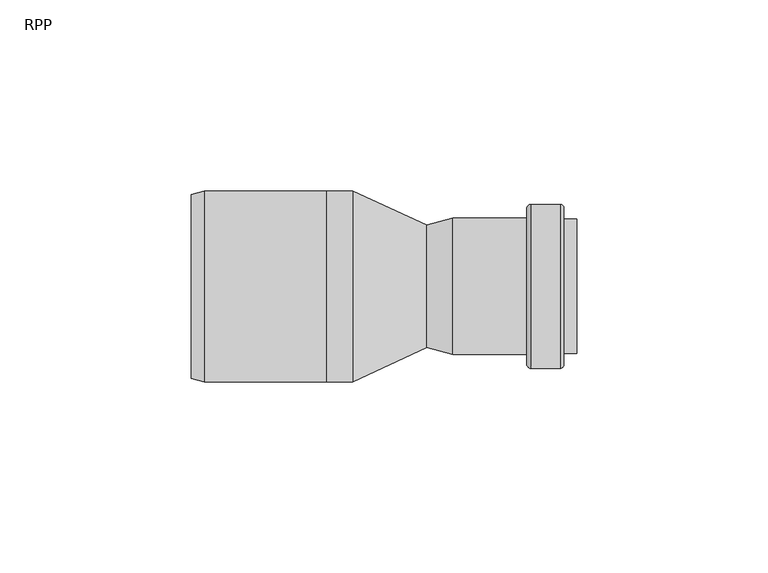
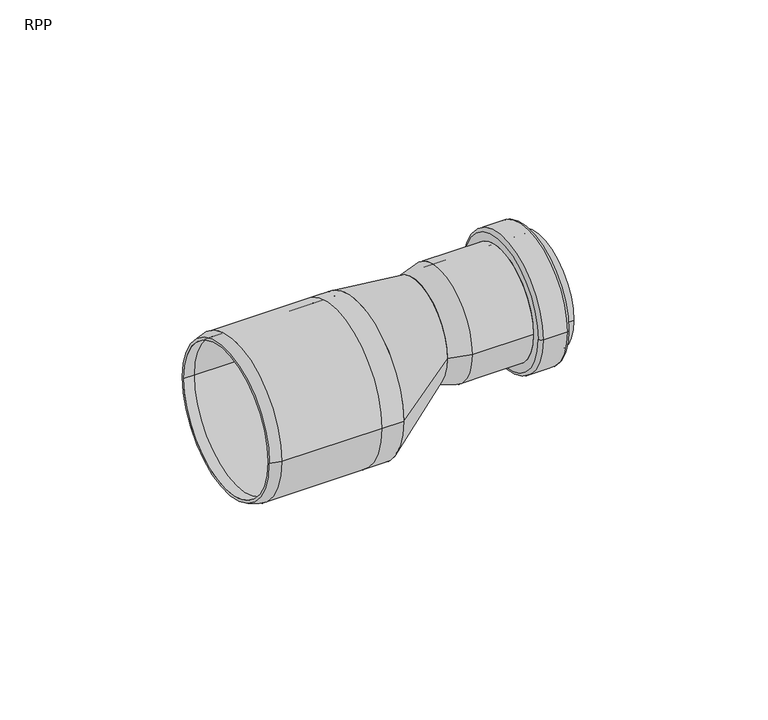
"""IFC4 building model written with IfcOpenShell, lengths in millimetres: pipe fitting geometry, RAUPIANO PLUS Reducer : RPP."""

from ifc_helpers import new_model, si_unit, point, frame, origin, place, context, project, spatial, polyline, circle_curve, ellipse_curve, trimmed, source, transform, mapped, element, save
from ifc_brep_helpers import plane_surface, cylinder_surface, revolved_surface, spline_surface, advanced_brep


def rpp_14855714(model_context):
    return source(origin(), model_context, "Body", "AdvancedBrep", [
        advanced_brep(
        [(35.9, 17.8220545, 9.0), (35.9, -17.8220545, 9.0), (16.5, -17.8220545, 9.0), (16.5, 17.8220545, 9.0), (49.0, 17.6076952, 9.0), (49.0, -17.6076952, 9.0), (45.6, -17.6076952, 9.0), (45.6, 17.6076952, 9.0), (45.6, 16.0220545, 9.0), (45.6, -16.0220545, 9.0), (49.0, -16.0220545, 9.0), (49.0, 16.0220545, 9.0), (16.5, 16.0220545, 9.0), (16.5, -16.0220545, 9.0), (9.7, 14.2, 9.0), (9.7, -14.2, 9.0), (9.7, -16.0, 9.0), (9.7, 16.0, 9.0), (36.9, 21.4720545, 9.0), (36.9, -21.4720545, 9.0), (35.9, -20.4720545, 9.0), (35.9, 20.4720545, 9.0), (44.6, 21.4720545, 9.0), (44.6, -21.4720545, 9.0), (45.6, 20.4720545, 9.0), (45.6, -20.4720545, 9.0)],
        [
            (0, 1, circle_curve(frame((35.9, 0.0, 9.0), z_axis=(-1.0, 0.0, 0.0), x_axis=(0.0, -1.0, 0.0)), 17.8220545)),
            (1, 2),
            (2, 3, circle_curve(frame((16.5, 0.0, 9.0), z_axis=(1.0, 0.0, 0.0), x_axis=(0.0, -1.0, 0.0)), 17.8220545)),
            (3, 0),
            (4, 5, circle_curve(frame((49.0, 0.0, 9.0), z_axis=(-1.0, 0.0, 0.0), x_axis=(0.0, -1.0, 0.0)), 17.6076952)),
            (5, 6),
            (6, 7, circle_curve(frame((45.6, 0.0, 9.0), z_axis=(1.0, 0.0, 0.0), x_axis=(0.0, -1.0, 0.0)), 17.6076952)),
            (7, 4),
            (8, 9, circle_curve(frame((45.6, 0.0, 9.0), z_axis=(-1.0, 0.0, 0.0), x_axis=(0.0, -1.0, 0.0)), 16.0220545)),
            (9, 10),
            (10, 11, circle_curve(frame((49.0, 0.0, 9.0), z_axis=(1.0, 0.0, 0.0), x_axis=(0.0, -1.0, 0.0)), 16.0220545)),
            (11, 8),
            (12, 13, circle_curve(frame((16.5, 0.0, 9.0), z_axis=(-1.0, 0.0, 0.0), x_axis=(0.0, -1.0, 0.0)), 16.0220545)),
            (13, 9),
            (8, 12),
            (14, 15, circle_curve(frame((9.7, 0.0, 9.0), z_axis=(-1.0, 0.0, 0.0), x_axis=(0.0, -1.0, 0.0)), 14.2)),
            (15, 13),
            (12, 14),
            (2, 16),
            (16, 17, circle_curve(frame((9.7, 0.0, 9.0), z_axis=(1.0, 0.0, 0.0), x_axis=(0.0, -1.0, 0.0)), 16.0)),
            (17, 3),
            (1, 0, circle_curve(frame((35.9, 0.0, 9.0), z_axis=(-1.0, 0.0, 0.0), x_axis=(0.0, 1.0, 0.0)), 17.8220545)),
            (3, 2, circle_curve(frame((16.5, 0.0, 9.0), z_axis=(1.0, 0.0, 0.0), x_axis=(0.0, 1.0, 0.0)), 17.8220545)),
            (5, 4, circle_curve(frame((49.0, 0.0, 9.0), z_axis=(-1.0, 0.0, 0.0), x_axis=(0.0, 1.0, 0.0)), 17.6076952)),
            (7, 6, circle_curve(frame((45.6, 0.0, 9.0), z_axis=(1.0, 0.0, 0.0), x_axis=(0.0, 1.0, 0.0)), 17.6076952)),
            (10, 11, circle_curve(frame((49.0, 0.0, 9.0), z_axis=(-1.0, 0.0, 0.0), x_axis=(0.0, 1.0, 0.0)), 16.0220545)),
            (9, 8, circle_curve(frame((45.6, 0.0, 9.0), z_axis=(-1.0, 0.0, 0.0), x_axis=(0.0, 1.0, 0.0)), 16.0220545)),
            (13, 12, circle_curve(frame((16.5, 0.0, 9.0), z_axis=(-1.0, 0.0, 0.0), x_axis=(0.0, 1.0, 0.0)), 16.0220545)),
            (15, 14, circle_curve(frame((9.7, 0.0, 9.0), z_axis=(-1.0, 0.0, 0.0), x_axis=(0.0, 1.0, 0.0)), 14.2)),
            (17, 16, circle_curve(frame((9.7, 0.0, 9.0), z_axis=(1.0, 0.0, 0.0), x_axis=(0.0, 1.0, 0.0)), 16.0)),
            (18, 19, circle_curve(frame((36.9, 0.0, 9.0), z_axis=(-1.0, 0.0, 0.0), x_axis=(0.0, -1.0, 0.0)), 21.4720545)),
            (19, 20, circle_curve(frame((36.9, -20.4720545, 9.0), z_axis=(0.0, 0.0, -1.0), x_axis=(1.0, 0.0, 0.0)), 1.0)),
            (20, 21, circle_curve(frame((35.9, 0.0, 9.0), z_axis=(1.0, 0.0, 0.0), x_axis=(0.0, -1.0, 0.0)), 20.4720545)),
            (21, 18, circle_curve(frame((36.9, 20.4720545, 9.0), z_axis=(0.0, 0.0, -1.0), x_axis=(1.0, 0.0, 0.0)), 1.0)),
            (22, 23, circle_curve(frame((44.6, 0.0, 9.0), z_axis=(-1.0, 0.0, 0.0), x_axis=(0.0, -1.0, 0.0)), 21.4720545)),
            (23, 19),
            (18, 22),
            (24, 25, circle_curve(frame((45.6, 0.0, 9.0), z_axis=(-1.0, 0.0, 0.0), x_axis=(0.0, -1.0, 0.0)), 20.4720545)),
            (25, 23, circle_curve(frame((44.6, -20.4720545, 9.0), z_axis=(0.0, 0.0, -1.0), x_axis=(1.0, 0.0, 0.0)), 1.0)),
            (22, 24, circle_curve(frame((44.6, 20.4720545, 9.0), z_axis=(0.0, 0.0, -1.0), x_axis=(1.0, 0.0, 0.0)), 1.0)),
            (20, 21, circle_curve(frame((35.9, 0.0, 9.0), z_axis=(-1.0, 0.0, 0.0), x_axis=(0.0, 1.0, 0.0)), 20.4720545)),
            (19, 18, circle_curve(frame((36.9, 0.0, 9.0), z_axis=(-1.0, 0.0, 0.0), x_axis=(0.0, 1.0, 0.0)), 21.4720545)),
            (23, 22, circle_curve(frame((44.6, 0.0, 9.0), z_axis=(-1.0, 0.0, 0.0), x_axis=(0.0, 1.0, 0.0)), 21.4720545)),
            (25, 24, circle_curve(frame((45.6, 0.0, 9.0), z_axis=(-1.0, 0.0, 0.0), x_axis=(0.0, 1.0, 0.0)), 20.4720545)),
        ],
        [
            cylinder_surface(frame((0.0, 0.0, 9.0), z_axis=(1.0, 0.0, 0.0), x_axis=(0.0, -1.0, 0.0)), 17.8220545),
            cylinder_surface(frame((0.0, 0.0, 9.0), z_axis=(1.0, 0.0, 0.0), x_axis=(0.0, -1.0, 0.0)), 17.6076952),
            revolved_surface(polyline([(49.0, -16.0220545, 9.0), (45.6, -16.0220545, 9.0)]), (0.0, 0.0, 9.0), (1.0, 0.0, 0.0)),
            revolved_surface(polyline([(45.6, -16.0220545, 9.0), (16.5, -16.0220545, 9.0)]), (0.0, 0.0, 9.0), (1.0, 0.0, 0.0)),
            revolved_surface(polyline([(16.5, -16.0220545, 9.0), (9.7, -14.2, 9.0)]), (0.0, 0.0, 9.0), (1.0, 0.0, 0.0)),
            revolved_surface(polyline([(9.7, -16.0, 9.0), (16.5, -17.8220545, 9.0)]), (0.0, 0.0, 9.0), (1.0, 0.0, 0.0)),
            cylinder_surface(frame((0.0, 0.0, 9.0), z_axis=(1.0, 0.0, 0.0), x_axis=(0.0, 1.0, 0.0)), 17.8220545),
            cylinder_surface(frame((0.0, 0.0, 9.0), z_axis=(1.0, 0.0, 0.0), x_axis=(0.0, 1.0, 0.0)), 17.6076952),
            plane_surface(frame((49.0, 0.0, 9.0), z_axis=(1.0, 0.0, 0.0), x_axis=(0.0, 1.0, 0.0))),
            revolved_surface(polyline([(49.0, 16.0220545, 9.0), (45.6, 16.0220545, 9.0)]), (0.0, 0.0, 9.0), (1.0, 0.0, 0.0)),
            revolved_surface(polyline([(45.6, 16.0220545, 9.0), (16.5, 16.0220545, 9.0)]), (0.0, 0.0, 9.0), (1.0, 0.0, 0.0)),
            revolved_surface(polyline([(16.5, 16.0220545, 9.0), (9.7, 14.2, 9.0)]), (0.0, 0.0, 9.0), (1.0, 0.0, 0.0)),
            revolved_surface(polyline([(9.7, 16.0, 9.0), (16.5, 17.8220545, 9.0)]), (0.0, 0.0, 9.0), (1.0, 0.0, 0.0)),
            revolved_surface(trimmed(ellipse_curve(frame((36.9, -20.4720545, 9.0), z_axis=(0.0, 0.0, 1.0), x_axis=(1.0, 0.0, 0.0)), 1.0, 1.0), [point((35.9, -20.4720545, 9.0))], [point((36.9, -21.4720545, 9.0))], True, "CARTESIAN"), (0.0, 0.0, 9.0), (1.0, 0.0, 0.0)),
            cylinder_surface(frame((0.0, 0.0, 9.0), z_axis=(1.0, 0.0, 0.0), x_axis=(0.0, -1.0, 0.0)), 21.4720545),
            revolved_surface(trimmed(ellipse_curve(frame((44.6, -20.4720545, 9.0), z_axis=(0.0, 0.0, 1.0), x_axis=(1.0, 0.0, 0.0)), 1.0, 1.0), [point((44.6, -21.4720545, 9.0))], [point((45.6, -20.4720545, 9.0))], True, "CARTESIAN"), (0.0, 0.0, 9.0), (1.0, 0.0, 0.0)),
            plane_surface(frame((35.9, 0.0, 9.0), z_axis=(-1.0, 0.0, 0.0), x_axis=(0.0, 1.0, 0.0))),
            revolved_surface(trimmed(ellipse_curve(frame((36.9, 20.4720545, 9.0), z_axis=(0.0, 0.0, -1.0), x_axis=(1.0, 0.0, 0.0)), 1.0, 1.0), [point((35.9, 20.4720545, 9.0))], [point((36.9, 21.4720545, 9.0))], True, "CARTESIAN"), (0.0, 0.0, 9.0), (1.0, 0.0, 0.0)),
            cylinder_surface(frame((0.0, 0.0, 9.0), z_axis=(1.0, 0.0, 0.0), x_axis=(0.0, 1.0, 0.0)), 21.4720545),
            revolved_surface(trimmed(ellipse_curve(frame((44.6, 20.4720545, 9.0), z_axis=(0.0, 0.0, -1.0), x_axis=(1.0, 0.0, 0.0)), 1.0, 1.0), [point((44.6, 21.4720545, 9.0))], [point((45.6, 20.4720545, 9.0))], True, "CARTESIAN"), (0.0, 0.0, 9.0), (1.0, 0.0, 0.0)),
            plane_surface(frame((45.6, 0.0, 9.0), z_axis=(1.0, 0.0, 0.0), x_axis=(0.0, 1.0, 0.0))),
            plane_surface(frame((9.7, 0.0, 9.0), z_axis=(-1.0, 0.0, 0.0), x_axis=(0.0, 1.0, 0.0))),
        ],
        [
            (0, [[1, 2, 3, 4]]),
            (1, [[5, 6, 7, 8]]),
            (2, [[9, 10, 11, 12]]),
            (3, [[13, 14, -9, 15]]),
            (4, [[16, 17, -13, 18]]),
            (5, [[-3, 19, 20, 21]]),
            (6, [[22, -4, 23, -2]]),
            (7, [[24, -8, 25, -6]]),
            (8, [[-24, -5], [26, -11]]),
            (9, [[27, -12, -26, -10]]),
            (10, [[28, -15, -27, -14]]),
            (11, [[29, -18, -28, -17]]),
            (12, [[-23, -21, 30, -19]]),
            (13, [[31, 32, 33, 34]]),
            (14, [[35, 36, -31, 37]]),
            (15, [[38, 39, -35, 40]]),
            (16, [[41, -33], [-22, -1]]),
            (17, [[42, -34, -41, -32]]),
            (18, [[43, -37, -42, -36]]),
            (19, [[44, -40, -43, -39]]),
            (20, [[-44, -38], [-25, -7]]),
            (21, [[-30, -20], [-29, -16]]),
        ],
    ),
        advanced_brep(
        [(-9.7, 25.0, 0.0), (-9.7, -25.0, 0.0), (-16.5, -25.0, 0.0), (-16.5, 25.0, 0.0), (-16.5, 23.2, 0.0), (-16.5, -23.2, 0.0), (-9.7, -23.2, 0.0), (-9.7, 23.2, 0.0), (-48.6, 23.2, 0.0), (-48.6, -23.2, 0.0), (-52.0, 23.2, 0.0), (-52.0, -23.2, 0.0), (-48.6, 25.0, 0.0), (-48.6, -25.0, 0.0), (-52.0, -24.0889727, 0.0), (-52.0, 24.0889727, 0.0)],
        [
            (0, 1, circle_curve(frame((-9.7, 0.0, 0.0), z_axis=(-1.0, 0.0, 0.0), x_axis=(0.0, -1.0, 0.0)), 25.0)),
            (1, 2),
            (2, 3, circle_curve(frame((-16.5, 0.0, 0.0), z_axis=(1.0, 0.0, 0.0), x_axis=(0.0, -1.0, 0.0)), 25.0)),
            (3, 0),
            (4, 5, circle_curve(frame((-16.5, 0.0, 0.0), z_axis=(-1.0, 0.0, 0.0), x_axis=(0.0, -1.0, 0.0)), 23.2)),
            (5, 6),
            (6, 7, circle_curve(frame((-9.7, 0.0, 0.0), z_axis=(1.0, 0.0, 0.0), x_axis=(0.0, -1.0, 0.0)), 23.2)),
            (7, 4),
            (8, 9, circle_curve(frame((-48.6, 0.0, 0.0), z_axis=(-1.0, 0.0, 0.0), x_axis=(0.0, -1.0, 0.0)), 23.2)),
            (9, 5),
            (4, 8),
            (10, 11, circle_curve(frame((-52.0, 0.0, 0.0), z_axis=(-1.0, 0.0, 0.0), x_axis=(0.0, -1.0, 0.0)), 23.2)),
            (11, 9),
            (8, 10),
            (12, 13, circle_curve(frame((-48.6, 0.0, 0.0), z_axis=(-1.0, 0.0, 0.0), x_axis=(0.0, -1.0, 0.0)), 25.0)),
            (13, 14),
            (14, 15, circle_curve(frame((-52.0, 0.0, 0.0), z_axis=(1.0, 0.0, 0.0), x_axis=(0.0, -1.0, 0.0)), 24.0889727)),
            (15, 12),
            (2, 13),
            (12, 3),
            (1, 0, circle_curve(frame((-9.7, 0.0, 0.0), z_axis=(-1.0, 0.0, 0.0), x_axis=(0.0, 1.0, 0.0)), 25.0)),
            (3, 2, circle_curve(frame((-16.5, 0.0, 0.0), z_axis=(1.0, 0.0, 0.0), x_axis=(0.0, 1.0, 0.0)), 25.0)),
            (6, 7, circle_curve(frame((-9.7, 0.0, 0.0), z_axis=(-1.0, 0.0, 0.0), x_axis=(0.0, 1.0, 0.0)), 23.2)),
            (5, 4, circle_curve(frame((-16.5, 0.0, 0.0), z_axis=(-1.0, 0.0, 0.0), x_axis=(0.0, 1.0, 0.0)), 23.2)),
            (9, 8, circle_curve(frame((-48.6, 0.0, 0.0), z_axis=(-1.0, 0.0, 0.0), x_axis=(0.0, 1.0, 0.0)), 23.2)),
            (11, 10, circle_curve(frame((-52.0, 0.0, 0.0), z_axis=(-1.0, 0.0, 0.0), x_axis=(0.0, 1.0, 0.0)), 23.2)),
            (14, 15, circle_curve(frame((-52.0, 0.0, 0.0), z_axis=(-1.0, 0.0, 0.0), x_axis=(0.0, 1.0, 0.0)), 24.0889727)),
            (13, 12, circle_curve(frame((-48.6, 0.0, 0.0), z_axis=(-1.0, 0.0, 0.0), x_axis=(0.0, 1.0, 0.0)), 25.0)),
        ],
        [
            cylinder_surface(frame((0.0, 0.0, 0.0), z_axis=(1.0, 0.0, 0.0), x_axis=(0.0, -1.0, 0.0)), 25.0),
            revolved_surface(polyline([(-9.7, -23.2, 0.0), (-16.5, -23.2, 0.0)]), (0.0, 0.0, 0.0), (1.0, 0.0, 0.0)),
            revolved_surface(polyline([(-16.5, -23.2, 0.0), (-48.6, -23.2, 0.0)]), (0.0, 0.0, 0.0), (1.0, 0.0, 0.0)),
            revolved_surface(polyline([(-48.6, -23.2, 0.0), (-52.0, -23.2, 0.0)]), (0.0, 0.0, 0.0), (1.0, 0.0, 0.0)),
            revolved_surface(polyline([(-52.0, -24.0889727, 0.0), (-48.6, -25.0, 0.0)]), (0.0, 0.0, 0.0), (1.0, 0.0, 0.0)),
            cylinder_surface(frame((0.0, 0.0, 0.0), z_axis=(1.0, 0.0, 0.0), x_axis=(0.0, 1.0, 0.0)), 25.0),
            plane_surface(frame((-9.7, 0.0, 0.0), z_axis=(1.0, 0.0, 0.0), x_axis=(0.0, 1.0, 0.0))),
            revolved_surface(polyline([(-9.7, 23.2, 0.0), (-16.5, 23.2, 0.0)]), (0.0, 0.0, 0.0), (1.0, 0.0, 0.0)),
            revolved_surface(polyline([(-16.5, 23.2, 0.0), (-48.6, 23.2, 0.0)]), (0.0, 0.0, 0.0), (1.0, 0.0, 0.0)),
            revolved_surface(polyline([(-48.6, 23.2, 0.0), (-52.0, 23.2, 0.0)]), (0.0, 0.0, 0.0), (1.0, 0.0, 0.0)),
            plane_surface(frame((-52.0, 0.0, 0.0), z_axis=(-1.0, 0.0, 0.0), x_axis=(0.0, 1.0, 0.0))),
            revolved_surface(polyline([(-52.0, 24.0889727, 0.0), (-48.6, 25.0, 0.0)]), (0.0, 0.0, 0.0), (1.0, 0.0, 0.0)),
        ],
        [
            (0, [[1, 2, 3, 4]]),
            (1, [[5, 6, 7, 8]]),
            (2, [[9, 10, -5, 11]]),
            (3, [[12, 13, -9, 14]]),
            (4, [[15, 16, 17, 18]]),
            (0, [[-3, 19, -15, 20]]),
            (5, [[21, -4, 22, -2]]),
            (6, [[-21, -1], [23, -7]]),
            (7, [[24, -8, -23, -6]]),
            (8, [[25, -11, -24, -10]]),
            (9, [[26, -14, -25, -13]]),
            (10, [[27, -17], [-26, -12]]),
            (11, [[28, -18, -27, -16]]),
            (5, [[-22, -20, -28, -19]]),
        ],
    ),
        advanced_brep(
        [(9.7, -16.0, 9.0), (9.7, 16.0, 9.0), (-9.7, -25.0, 0.0), (-9.7, 25.0, 0.0)],
        [
            (0, 1, circle_curve(frame((9.7, 0.0, 9.0), z_axis=(1.0, 0.0, 0.0), x_axis=(0.0, 1.0, 0.0)), 16.0)),
            (1, 0, circle_curve(frame((9.7, 0.0, 9.0), z_axis=(1.0, 0.0, 0.0), x_axis=(0.0, 1.0, 0.0)), 16.0)),
            (2, 3, circle_curve(frame((-9.7, 0.0, 0.0), z_axis=(-1.0, 0.0, 0.0), x_axis=(0.0, 1.0, 0.0)), 25.0)),
            (3, 2, circle_curve(frame((-9.7, 0.0, 0.0), z_axis=(-1.0, 0.0, 0.0), x_axis=(0.0, 1.0, 0.0)), 25.0)),
            (3, 1),
            (0, 2),
        ],
        [
            plane_surface(frame((9.7, 0.0, 9.0), z_axis=(1.0, 0.0, 0.0), x_axis=(0.0, 0.0, -1.0))),
            plane_surface(frame((-9.7, 0.0, 0.0), z_axis=(-1.0, 0.0, 0.0), x_axis=(0.0, 0.0, -1.0))),
            spline_surface(2, 1, [[(-9.7, -25.0, 0.0), (9.7, -16.0, 9.0)], [(-9.7, -25.0, -25.0), (9.7, -16.0, -7.0)], [(-9.7, 0.0, -25.0), (9.7, 0.0, -7.0)], [(-9.7, 25.0, -25.0), (9.7, 16.0, -7.0)], [(-9.7, 25.0, 0.0), (9.7, 16.0, 9.0)]], [3, 2, 3], [2, 2], [0.0, 1.0, 2.0], [0.0, 1.0], weights=[[1.0, 1.0], [0.7071067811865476, 0.7071067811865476], [1.0, 1.0], [0.7071067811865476, 0.7071067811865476], [1.0, 1.0]]),
            spline_surface(2, 1, [[(-9.7, 25.0, 0.0), (9.7, 16.0, 9.0)], [(-9.7, 25.0, 25.0), (9.7, 16.0, 25.0)], [(-9.7, 0.0, 25.0), (9.7, 0.0, 25.0)], [(-9.7, -25.0, 25.0), (9.7, -16.0, 25.0)], [(-9.7, -25.0, 0.0), (9.7, -16.0, 9.0)]], [3, 2, 3], [2, 2], [0.0, 1.0, 2.0], [0.0, 1.0], weights=[[1.0, 1.0], [0.7071067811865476, 0.7071067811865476], [1.0, 1.0], [0.7071067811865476, 0.7071067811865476], [1.0, 1.0]]),
        ],
        [
            (0, [[1, 2]]),
            (1, [[3, 4]]),
            (2, [[-4, 5, -1, 6]]),
            (3, [[-3, -6, -2, -5]]),
        ],
    ),
    ])


if __name__ == "__main__":
    model = new_model("IFC4")
    model_context = context("Model", 3, world=origin())
    ifc_project = project(units=[si_unit("LENGTHUNIT", "METRE", prefix="MILLI")], contexts=[model_context])
    site = spatial("IfcSite", under=ifc_project)
    building = spatial("IfcBuilding", under=site)
    placement = place(None, origin())
    rpp_shape = rpp_14855714(model_context)
    element("IfcPipeFitting", 1, ObjectType="RAUPIANO PLUS Reducer : RPP", at=placement, inside=building, context=model_context, shape_type="MappedRepresentation", body=[
        mapped(rpp_shape, transform((0.0, 0.0, 0.0), x_axis=(1.0, 0.0, 0.0), y_axis=(0.0, 1.0, 0.0), z_axis=(0.0, 0.0, 1.0))),
    ])
    save(model, "model.ifc")
